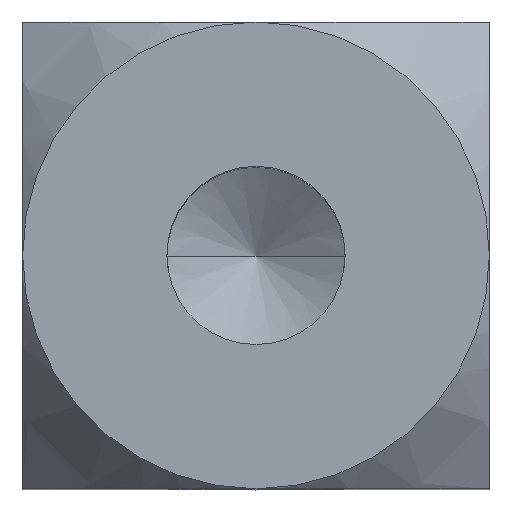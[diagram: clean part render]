
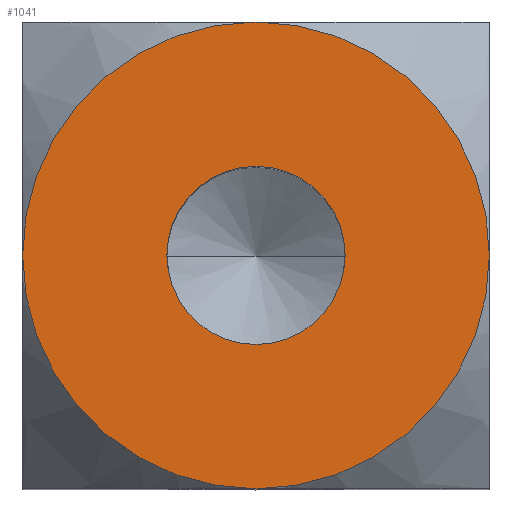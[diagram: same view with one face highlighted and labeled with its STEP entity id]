
A CAD part, top view. The second image highlights one B-rep face of the part: STEP entity #1041.
In plain terms, the highlighted planar face has unit normal (0, 0, 1).
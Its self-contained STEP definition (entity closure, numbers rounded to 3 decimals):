
#24 = EDGE_CURVE ( 'NONE', #396, #317, #705, .T. ) ;
#58 = AXIS2_PLACEMENT_3D ( 'NONE', #128, #1036, #951 ) ;
#68 = CIRCLE ( 'NONE', #975, 5.5 ) ;
#97 = CARTESIAN_POINT ( 'NONE',  ( 0., 0., 16. ) ) ;
#111 = DIRECTION ( 'NONE',  ( -1., 0., 0. ) ) ;
#116 = DIRECTION ( 'NONE',  ( 1., 0., 0. ) ) ;
#125 = EDGE_LOOP ( 'NONE', ( #377, #532 ) ) ;
#127 = EDGE_CURVE ( 'NONE', #1012, #311, #391, .T. ) ;
#128 = CARTESIAN_POINT ( 'NONE',  ( 0., 0., 16. ) ) ;
#147 = AXIS2_PLACEMENT_3D ( 'NONE', #97, #427, #111 ) ;
#188 = CARTESIAN_POINT ( 'NONE',  ( -5.5, 0., 16. ) ) ;
#198 = AXIS2_PLACEMENT_3D ( 'NONE', #713, #1021, #322 ) ;
#210 = DIRECTION ( 'NONE',  ( 0., 0., 1. ) ) ;
#253 = DIRECTION ( 'NONE',  ( 0., -1., 0. ) ) ;
#283 = FACE_BOUND ( 'NONE', #125, .T. ) ;
#290 = FACE_OUTER_BOUND ( 'NONE', #937, .T. ) ;
#311 = VERTEX_POINT ( 'NONE', #742 ) ;
#317 = VERTEX_POINT ( 'NONE', #188 ) ;
#319 = VERTEX_POINT ( 'NONE', #586 ) ;
#322 = DIRECTION ( 'NONE',  ( -1., 0., 0. ) ) ;
#327 = CIRCLE ( 'NONE', #58, 5.5 ) ;
#330 = CARTESIAN_POINT ( 'NONE',  ( 0., 0., 16. ) ) ;
#360 = EDGE_CURVE ( 'NONE', #317, #1012, #327, .T. ) ;
#364 = CARTESIAN_POINT ( 'NONE',  ( -5.566, -5.566, 16. ) ) ;
#372 = CARTESIAN_POINT ( 'NONE',  ( 0., 5.5, 16. ) ) ;
#377 = ORIENTED_EDGE ( 'NONE', *, *, #496, .F. ) ;
#391 = CIRCLE ( 'NONE', #147, 5.5 ) ;
#396 = VERTEX_POINT ( 'NONE', #372 ) ;
#427 = DIRECTION ( 'NONE',  ( 0., 0., 1. ) ) ;
#428 = DIRECTION ( 'NONE',  ( -1., 0., 0. ) ) ;
#447 = EDGE_CURVE ( 'NONE', #311, #396, #68, .T. ) ;
#485 = DIRECTION ( 'NONE',  ( 0., 0., 1. ) ) ;
#493 = ORIENTED_EDGE ( 'NONE', *, *, #24, .T. ) ;
#496 = EDGE_CURVE ( 'NONE', #1039, #319, #795, .T. ) ;
#532 = ORIENTED_EDGE ( 'NONE', *, *, #1047, .F. ) ;
#541 = ORIENTED_EDGE ( 'NONE', *, *, #127, .T. ) ;
#586 = CARTESIAN_POINT ( 'NONE',  ( -2.1, 0., 16. ) ) ;
#616 = CARTESIAN_POINT ( 'NONE',  ( 0., -5.5, 16. ) ) ;
#656 = DIRECTION ( 'NONE',  ( 0., 0., 1. ) ) ;
#705 = CIRCLE ( 'NONE', #198, 5.5 ) ;
#713 = CARTESIAN_POINT ( 'NONE',  ( 0., 0., 16. ) ) ;
#719 = CIRCLE ( 'NONE', #911, 2.1 ) ;
#742 = CARTESIAN_POINT ( 'NONE',  ( 5.5, 0., 16. ) ) ;
#769 = AXIS2_PLACEMENT_3D ( 'NONE', #364, #210, #116 ) ;
#795 = CIRCLE ( 'NONE', #807, 2.1 ) ;
#798 = ORIENTED_EDGE ( 'NONE', *, *, #360, .T. ) ;
#807 = AXIS2_PLACEMENT_3D ( 'NONE', #969, #656, #253 ) ;
#855 = CARTESIAN_POINT ( 'NONE',  ( 2.1, 0., 16. ) ) ;
#911 = AXIS2_PLACEMENT_3D ( 'NONE', #1003, #925, #1011 ) ;
#925 = DIRECTION ( 'NONE',  ( 0., 0., 1. ) ) ;
#936 = PLANE ( 'NONE',  #769 ) ;
#937 = EDGE_LOOP ( 'NONE', ( #541, #959, #493, #798 ) ) ;
#951 = DIRECTION ( 'NONE',  ( -1., 0., 0. ) ) ;
#959 = ORIENTED_EDGE ( 'NONE', *, *, #447, .T. ) ;
#969 = CARTESIAN_POINT ( 'NONE',  ( 0., 0., 16. ) ) ;
#975 = AXIS2_PLACEMENT_3D ( 'NONE', #330, #485, #428 ) ;
#1003 = CARTESIAN_POINT ( 'NONE',  ( 0., 0., 16. ) ) ;
#1011 = DIRECTION ( 'NONE',  ( 0., -1., 0. ) ) ;
#1012 = VERTEX_POINT ( 'NONE', #616 ) ;
#1021 = DIRECTION ( 'NONE',  ( 0., 0., 1. ) ) ;
#1036 = DIRECTION ( 'NONE',  ( 0., 0., 1. ) ) ;
#1039 = VERTEX_POINT ( 'NONE', #855 ) ;
#1041 = ADVANCED_FACE ( 'NONE', ( #283, #290 ), #936, .T. ) ;
#1047 = EDGE_CURVE ( 'NONE', #319, #1039, #719, .T. ) ;
